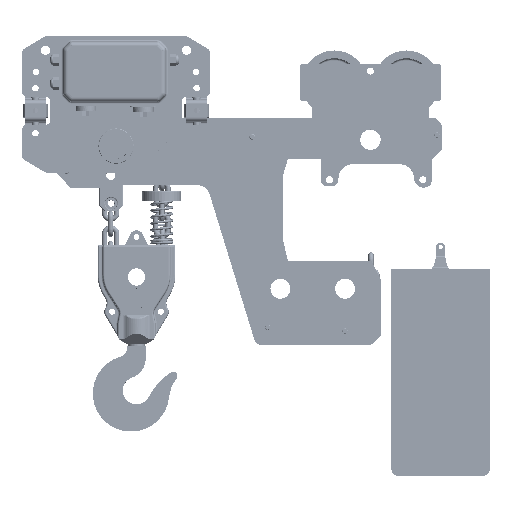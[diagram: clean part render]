
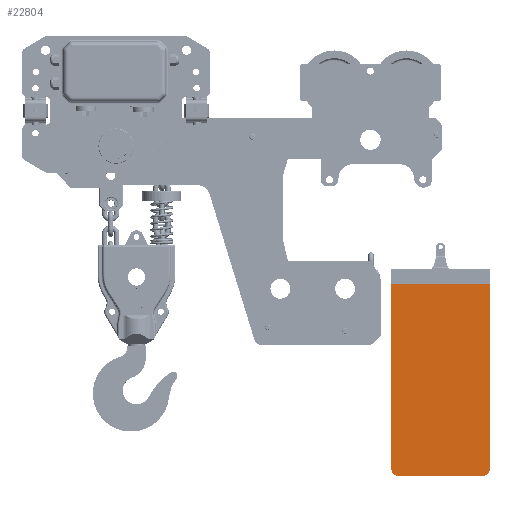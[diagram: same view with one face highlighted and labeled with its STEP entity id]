
A CAD part, top view. The second image highlights one B-rep face of the part: STEP entity #22804.
In plain terms, the highlighted planar face has unit normal (0, 0, 1).
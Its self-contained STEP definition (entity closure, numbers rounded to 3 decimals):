
#14838=FACE_OUTER_BOUND('',#46665,.T.);
#22804=ADVANCED_FACE('',(#14838),#24759,.T.);
#24759=PLANE('',#113528);
#30592=LINE('',#330830,#37309);
#30594=LINE('',#330833,#37311);
#30595=LINE('',#330836,#37312);
#30596=LINE('',#330837,#37313);
#37309=VECTOR('',#139142,1.);
#37311=VECTOR('',#139146,1.);
#37312=VECTOR('',#139147,1.);
#37313=VECTOR('',#139148,1.);
#46665=EDGE_LOOP('',(#74721,#74722,#74723,#74724,#74725,#74726));
#74721=ORIENTED_EDGE('',*,*,#98857,.F.);
#74722=ORIENTED_EDGE('',*,*,#98858,.F.);
#74723=ORIENTED_EDGE('',*,*,#98853,.T.);
#74724=ORIENTED_EDGE('',*,*,#98855,.T.);
#74725=ORIENTED_EDGE('',*,*,#98847,.T.);
#74726=ORIENTED_EDGE('',*,*,#98859,.T.);
#84663=VERTEX_POINT('',#330813);
#84664=VERTEX_POINT('',#330814);
#84669=VERTEX_POINT('',#330825);
#84670=VERTEX_POINT('',#330827);
#84671=VERTEX_POINT('',#330834);
#84672=VERTEX_POINT('',#330835);
#98847=EDGE_CURVE('',#84663,#84664,#103968,.T.);
#98853=EDGE_CURVE('',#84670,#84669,#103971,.T.);
#98855=EDGE_CURVE('',#84669,#84663,#30592,.T.);
#98857=EDGE_CURVE('',#84671,#84672,#30594,.T.);
#98858=EDGE_CURVE('',#84670,#84671,#30595,.T.);
#98859=EDGE_CURVE('',#84664,#84672,#30596,.T.);
#103968=CIRCLE('',#113521,15.);
#103971=CIRCLE('',#113525,15.);
#113521=AXIS2_PLACEMENT_3D('',#330812,#139126,#139127);
#113525=AXIS2_PLACEMENT_3D('',#330826,#139137,#139138);
#113528=AXIS2_PLACEMENT_3D('',#330838,#139149,#139150);
#139126=DIRECTION('',(0.,0.,1.));
#139127=DIRECTION('',(1.,0.,0.));
#139137=DIRECTION('',(0.,0.,1.));
#139138=DIRECTION('',(1.,0.,0.));
#139142=DIRECTION('',(1.,0.,0.));
#139146=DIRECTION('',(1.,0.,0.));
#139147=DIRECTION('',(0.,1.,0.));
#139148=DIRECTION('',(0.,1.,0.));
#139149=DIRECTION('',(0.,0.,1.));
#139150=DIRECTION('',(-1.,0.,0.));
#330812=CARTESIAN_POINT('',(1415.812,-273.104,196.075));
#330813=CARTESIAN_POINT('',(1415.812,-288.104,196.075));
#330814=CARTESIAN_POINT('',(1430.812,-273.104,196.075));
#330825=CARTESIAN_POINT('',(1236.312,-288.104,196.075));
#330826=CARTESIAN_POINT('',(1236.312,-273.104,196.075));
#330827=CARTESIAN_POINT('',(1221.312,-273.104,196.075));
#330830=CARTESIAN_POINT('',(1249.312,-288.104,196.075));
#330833=CARTESIAN_POINT('',(1251.312,119.896,196.075));
#330834=CARTESIAN_POINT('',(1221.312,119.896,196.075));
#330835=CARTESIAN_POINT('',(1430.812,119.896,196.075));
#330836=CARTESIAN_POINT('',(1221.312,918.388,196.075));
#330837=CARTESIAN_POINT('',(1430.812,146.896,196.075));
#330838=CARTESIAN_POINT('',(1251.312,146.896,196.075));
